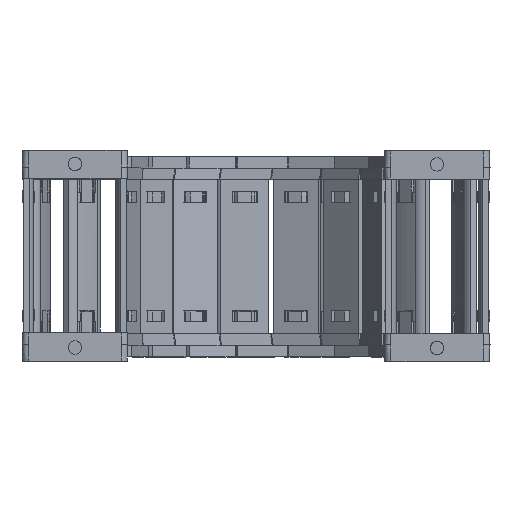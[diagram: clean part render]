
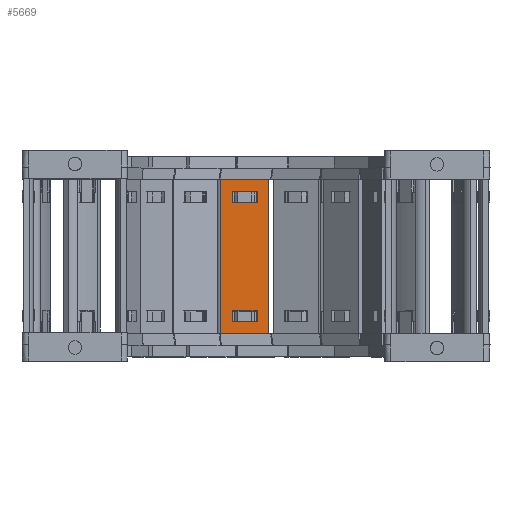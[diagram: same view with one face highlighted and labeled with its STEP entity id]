
A CAD part, top view. The second image highlights one B-rep face of the part: STEP entity #5669.
In plain terms, the highlighted planar face has unit normal (0.035, 0, 0.999) as drawn and (0, 1, 0) by its records, which use the part's own axes.
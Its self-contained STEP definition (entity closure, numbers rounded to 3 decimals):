
#5089=DIRECTION('',(0.,0.,1.));
#5090=VECTOR('',#5089,15.8);
#5091=CARTESIAN_POINT('',(35.74,1.5,-7.9));
#5092=LINE('',#5091,#5090);
#5093=DIRECTION('',(-1.,0.,0.));
#5094=VECTOR('',#5093,50.5);
#5095=CARTESIAN_POINT('',(35.74,1.5,7.9));
#5096=LINE('',#5095,#5094);
#5097=DIRECTION('',(0.,0.,-1.));
#5098=VECTOR('',#5097,15.8);
#5099=CARTESIAN_POINT('',(-14.76,1.5,7.9));
#5100=LINE('',#5099,#5098);
#5101=DIRECTION('',(1.,0.,0.));
#5102=VECTOR('',#5101,3.648);
#5103=CARTESIAN_POINT('',(28.122,1.5,4.075));
#5104=LINE('',#5103,#5102);
#5105=DIRECTION('',(0.,0.,-1.));
#5106=VECTOR('',#5105,8.15);
#5107=CARTESIAN_POINT('',(31.77,1.5,4.075));
#5108=LINE('',#5107,#5106);
#5109=DIRECTION('',(-1.,0.,0.));
#5110=VECTOR('',#5109,3.648);
#5111=CARTESIAN_POINT('',(31.77,1.5,-4.075));
#5112=LINE('',#5111,#5110);
#5113=DIRECTION('',(0.,0.,-1.));
#5114=VECTOR('',#5113,8.15);
#5115=CARTESIAN_POINT('',(-7.142,1.5,4.075));
#5116=LINE('',#5115,#5114);
#5117=DIRECTION('',(-1.,0.,0.));
#5118=VECTOR('',#5117,3.648);
#5119=CARTESIAN_POINT('',(-7.142,1.5,-4.075));
#5120=LINE('',#5119,#5118);
#5121=DIRECTION('',(0.,0.,1.));
#5122=VECTOR('',#5121,8.15);
#5123=CARTESIAN_POINT('',(-10.79,1.5,-4.075));
#5124=LINE('',#5123,#5122);
#5125=DIRECTION('',(1.,0.,0.));
#5126=VECTOR('',#5125,3.648);
#5127=CARTESIAN_POINT('',(-10.79,1.5,4.075));
#5128=LINE('',#5127,#5126);
#5133=DIRECTION('',(-1.,0.,0.));
#5134=VECTOR('',#5133,50.5);
#5135=CARTESIAN_POINT('',(35.74,1.5,-7.9));
#5136=LINE('',#5135,#5134);
#5254=DIRECTION('',(0.,0.,-1.));
#5255=VECTOR('',#5254,8.15);
#5256=CARTESIAN_POINT('',(28.122,1.5,4.075));
#5257=LINE('',#5256,#5255);
#5439=CARTESIAN_POINT('',(31.77,1.5,4.075));
#5440=VERTEX_POINT('',#5439);
#5441=CARTESIAN_POINT('',(28.122,1.5,4.075));
#5442=VERTEX_POINT('',#5441);
#5483=CARTESIAN_POINT('',(28.122,1.5,-4.075));
#5484=VERTEX_POINT('',#5483);
#5485=CARTESIAN_POINT('',(31.77,1.5,-4.075));
#5486=VERTEX_POINT('',#5485);
#5487=CARTESIAN_POINT('',(35.74,1.5,7.9));
#5489=VERTEX_POINT('',#5487);
#5491=CARTESIAN_POINT('',(35.74,1.5,-7.9));
#5492=VERTEX_POINT('',#5491);
#5515=CARTESIAN_POINT('',(-7.142,1.5,4.075));
#5516=CARTESIAN_POINT('',(-7.142,1.5,-4.075));
#5517=VERTEX_POINT('',#5515);
#5518=VERTEX_POINT('',#5516);
#5519=CARTESIAN_POINT('',(-10.79,1.5,-4.075));
#5520=VERTEX_POINT('',#5519);
#5521=CARTESIAN_POINT('',(-10.79,1.5,4.075));
#5522=VERTEX_POINT('',#5521);
#5523=CARTESIAN_POINT('',(-14.76,1.5,7.9));
#5524=VERTEX_POINT('',#5523);
#5527=CARTESIAN_POINT('',(-14.76,1.5,-7.9));
#5528=VERTEX_POINT('',#5527);
#5638=CARTESIAN_POINT('',(67.48,1.5,10.061));
#5639=DIRECTION('',(0.,-1.,0.));
#5640=DIRECTION('',(0.,0.,-1.));
#5641=AXIS2_PLACEMENT_3D('',#5638,#5639,#5640);
#5642=PLANE('',#5641);
#5643=ORIENTED_EDGE('',*,*,#5577,.T.);
#5644=ORIENTED_EDGE('',*,*,#5603,.T.);
#5645=ORIENTED_EDGE('',*,*,#5616,.T.);
#5647=ORIENTED_EDGE('',*,*,#5646,.F.);
#5648=EDGE_LOOP('',(#5643,#5644,#5645,#5647));
#5649=FACE_OUTER_BOUND('',#5648,.F.);
#5651=ORIENTED_EDGE('',*,*,#5650,.F.);
#5652=ORIENTED_EDGE('',*,*,#5540,.T.);
#5654=ORIENTED_EDGE('',*,*,#5653,.T.);
#5656=ORIENTED_EDGE('',*,*,#5655,.T.);
#5657=EDGE_LOOP('',(#5651,#5652,#5654,#5656));
#5658=FACE_BOUND('',#5657,.F.);
#5660=ORIENTED_EDGE('',*,*,#5659,.T.);
#5662=ORIENTED_EDGE('',*,*,#5661,.T.);
#5664=ORIENTED_EDGE('',*,*,#5663,.T.);
#5666=ORIENTED_EDGE('',*,*,#5665,.T.);
#5667=EDGE_LOOP('',(#5660,#5662,#5664,#5666));
#5668=FACE_BOUND('',#5667,.F.);
#5669=ADVANCED_FACE('',(#5649,#5658,#5668),#5642,.F.);
#5540=EDGE_CURVE('',#5442,#5440,#5104,.T.);
#5577=EDGE_CURVE('',#5492,#5489,#5092,.T.);
#5603=EDGE_CURVE('',#5489,#5524,#5096,.T.);
#5616=EDGE_CURVE('',#5524,#5528,#5100,.T.);
#5646=EDGE_CURVE('',#5492,#5528,#5136,.T.);
#5650=EDGE_CURVE('',#5442,#5484,#5257,.T.);
#5653=EDGE_CURVE('',#5440,#5486,#5108,.T.);
#5655=EDGE_CURVE('',#5486,#5484,#5112,.T.);
#5659=EDGE_CURVE('',#5517,#5518,#5116,.T.);
#5661=EDGE_CURVE('',#5518,#5520,#5120,.T.);
#5663=EDGE_CURVE('',#5520,#5522,#5124,.T.);
#5665=EDGE_CURVE('',#5522,#5517,#5128,.T.);
